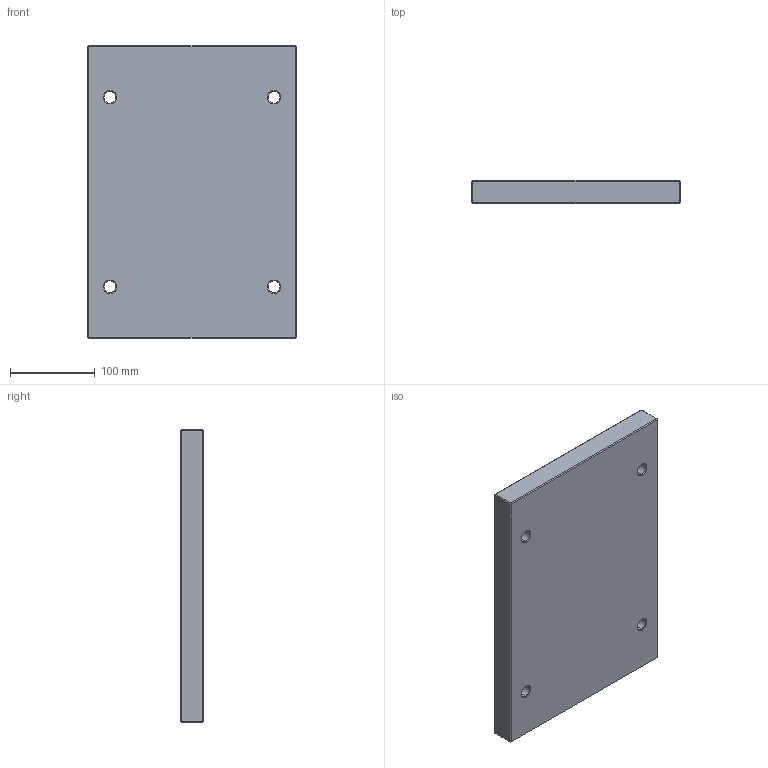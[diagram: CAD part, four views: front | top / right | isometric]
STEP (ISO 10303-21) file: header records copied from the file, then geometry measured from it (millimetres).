
FILE_DESCRIPTION (( 'STEP AP214' ), '1' );
FILE_NAME ('PBAS-246x346x27.STEP', '2020-03-24T14:53:58', ( 'August' ), ( '' ), 'SwSTEP 2.0', 'SolidWorks 2018', '' );
FILE_SCHEMA (( 'AUTOMOTIVE_DESIGN' ));
Length unit declared in the file: millimetre
Products named in the file (1): PBAS-246x346x27
Bounding box: 246 x 27 x 346 mm (x, y, z)
Volume: 2271079.6 mm3; surface area: 205080.9 mm2
Topology: 1 solids, 1 shells, 62 faces, 128 edges, 72 vertices
Faces by surface type: plane 30, cone 16, cylinder 16
Entity records: 1650 total; most frequent: DIRECTION 302, CARTESIAN_POINT 263, ORIENTED_EDGE 256, EDGE_CURVE 128, AXIS2_PLACEMENT_3D 111, LINE 80, VECTOR 80, EDGE_LOOP 74
